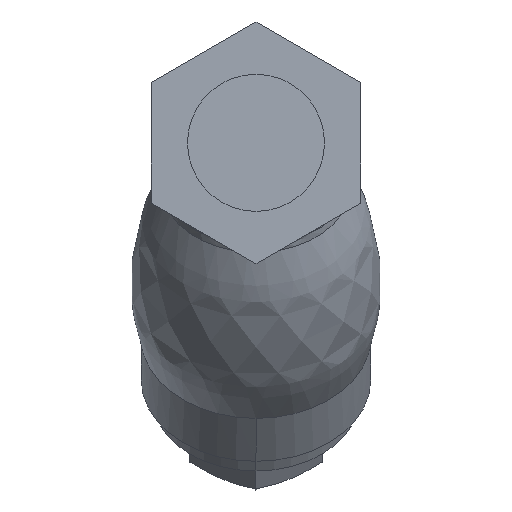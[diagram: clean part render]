
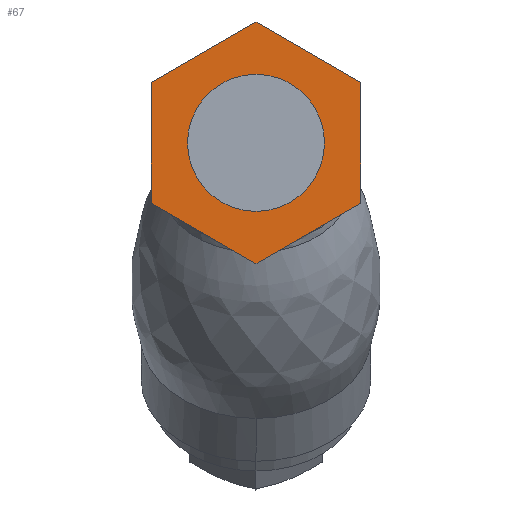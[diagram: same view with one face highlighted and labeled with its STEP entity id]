
A CAD part, left-side view. The second image highlights one B-rep face of the part: STEP entity #67.
In plain terms, the highlighted planar face has unit normal (-1, 0, 0).
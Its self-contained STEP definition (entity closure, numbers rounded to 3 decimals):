
#67=ADVANCED_FACE('',(#370,#371),#369,.F.);
#369=PLANE('',#1053);
#370=FACE_OUTER_BOUND('',#1054,.T.);
#371=FACE_BOUND('',#1055,.T.);
#1050=CARTESIAN_POINT('',(0.,-25.2,29.098));
#1051=DIRECTION('',(1.,0.,0.));
#1052=DIRECTION('',(0.,0.,-1.));
#1053=AXIS2_PLACEMENT_3D('',#1050,#1051,#1052);
#1054=EDGE_LOOP('',(#1434,#1435,#1436,#1437,#1438,#1439));
#1055=EDGE_LOOP('',(#1440,#1441));
#1434=ORIENTED_EDGE('',*,*,#1683,.T.);
#1435=ORIENTED_EDGE('',*,*,#1684,.T.);
#1436=ORIENTED_EDGE('',*,*,#1685,.T.);
#1437=ORIENTED_EDGE('',*,*,#1686,.T.);
#1438=ORIENTED_EDGE('',*,*,#1687,.T.);
#1439=ORIENTED_EDGE('',*,*,#1688,.T.);
#1440=ORIENTED_EDGE('',*,*,#1689,.T.);
#1441=ORIENTED_EDGE('',*,*,#1690,.T.);
#1683=EDGE_CURVE('',#2361,#2362,#2363,.T.);
#1684=EDGE_CURVE('',#2362,#2369,#2370,.T.);
#1685=EDGE_CURVE('',#2369,#2376,#2377,.T.);
#1686=EDGE_CURVE('',#2376,#2383,#2384,.T.);
#1687=EDGE_CURVE('',#2383,#2390,#2391,.T.);
#1688=EDGE_CURVE('',#2390,#2361,#2397,.T.);
#1689=EDGE_CURVE('',#2403,#2404,#2405,.T.);
#1690=EDGE_CURVE('',#2404,#2403,#2411,.T.);
#2361=VERTEX_POINT('',#3309);
#2362=VERTEX_POINT('',#3310);
#2363=LINE('',#3311,#3312);
#2369=VERTEX_POINT('',#3314);
#2370=LINE('',#3315,#3316);
#2376=VERTEX_POINT('',#3318);
#2377=LINE('',#3319,#3320);
#2383=VERTEX_POINT('',#3322);
#2384=LINE('',#3323,#3324);
#2390=VERTEX_POINT('',#3326);
#2391=LINE('',#3327,#3328);
#2397=LINE('',#3330,#3331);
#2403=VERTEX_POINT('',#3333);
#2404=VERTEX_POINT('',#3334);
#2405=CIRCLE('',#3338,13.75);
#2411=CIRCLE('',#3342,13.75);
#3309=CARTESIAN_POINT('',(0.,-21.,12.124));
#3310=CARTESIAN_POINT('',(0.,0.,24.249));
#3311=CARTESIAN_POINT('',(0.,-21.,12.124));
#3312=VECTOR('',#3313,24.248);
#3313=DIRECTION('',(0.,0.866,0.5));
#3314=CARTESIAN_POINT('',(0.,21.,12.124));
#3315=CARTESIAN_POINT('',(0.,0.,24.249));
#3316=VECTOR('',#3317,24.249);
#3317=DIRECTION('',(0.,0.866,-0.5));
#3318=CARTESIAN_POINT('',(0.,21.,-12.124));
#3319=CARTESIAN_POINT('',(0.,21.,12.124));
#3320=VECTOR('',#3321,24.249);
#3321=DIRECTION('',(0.,0.,-1.));
#3322=CARTESIAN_POINT('',(0.,0.,-24.249));
#3323=CARTESIAN_POINT('',(0.,21.,-12.124));
#3324=VECTOR('',#3325,24.249);
#3325=DIRECTION('',(0.,-0.866,-0.5));
#3326=CARTESIAN_POINT('',(0.,-21.,-12.124));
#3327=CARTESIAN_POINT('',(0.,0.,-24.249));
#3328=VECTOR('',#3329,24.248);
#3329=DIRECTION('',(0.,-0.866,0.5));
#3330=CARTESIAN_POINT('',(0.,-21.,-12.124));
#3331=VECTOR('',#3332,24.249);
#3332=DIRECTION('',(0.,0.,1.));
#3333=CARTESIAN_POINT('',(0.,0.,13.75));
#3334=CARTESIAN_POINT('',(0.,0.,-13.75));
#3335=CARTESIAN_POINT('',(0.,0.,0.));
#3336=DIRECTION('',(1.,0.,0.));
#3337=DIRECTION('',(0.,0.,1.));
#3338=AXIS2_PLACEMENT_3D('',#3335,#3336,#3337);
#3339=CARTESIAN_POINT('',(0.,0.,0.));
#3340=DIRECTION('',(1.,0.,0.));
#3341=DIRECTION('',(0.,0.,1.));
#3342=AXIS2_PLACEMENT_3D('',#3339,#3340,#3341);
